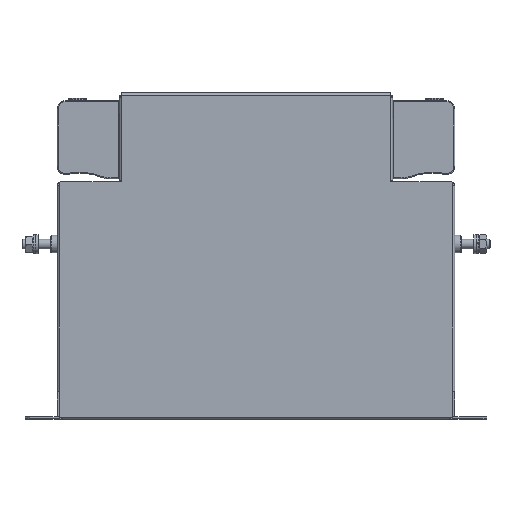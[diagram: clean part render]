
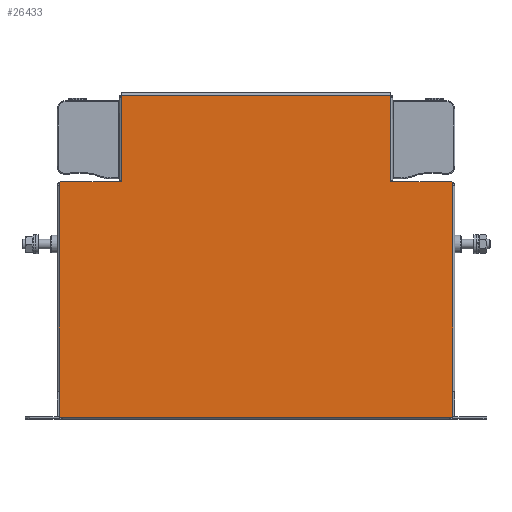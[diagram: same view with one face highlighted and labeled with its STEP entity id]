
A CAD part, top view. The second image highlights one B-rep face of the part: STEP entity #26433.
In plain terms, the highlighted planar face has unit normal (0, 0, 1).
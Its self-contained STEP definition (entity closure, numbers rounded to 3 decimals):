
#3881=FACE_OUTER_BOUND('',#5610,.T.);
#5610=EDGE_LOOP('',(#22480,#22481,#22482,#22483,#22484,#22485,#22486,#22487,
#22488,#22489));
#7776=LINE('',#46256,#9936);
#7777=LINE('',#46258,#9937);
#7778=LINE('',#46260,#9938);
#7779=LINE('',#46262,#9939);
#7780=LINE('',#46264,#9940);
#7781=LINE('',#46266,#9941);
#7782=LINE('',#46268,#9942);
#7783=LINE('',#46270,#9943);
#7784=LINE('',#46272,#9944);
#7785=LINE('',#46273,#9945);
#9936=VECTOR('',#36584,10.);
#9937=VECTOR('',#36585,10.);
#9938=VECTOR('',#36586,10.);
#9939=VECTOR('',#36587,10.);
#9940=VECTOR('',#36588,10.);
#9941=VECTOR('',#36589,10.);
#9942=VECTOR('',#36590,10.);
#9943=VECTOR('',#36591,10.);
#9944=VECTOR('',#36592,10.);
#9945=VECTOR('',#36593,10.);
#12046=VERTEX_POINT('',#46254);
#12047=VERTEX_POINT('',#46255);
#12048=VERTEX_POINT('',#46257);
#12049=VERTEX_POINT('',#46259);
#12050=VERTEX_POINT('',#46261);
#12051=VERTEX_POINT('',#46263);
#12052=VERTEX_POINT('',#46265);
#12053=VERTEX_POINT('',#46267);
#12054=VERTEX_POINT('',#46269);
#12055=VERTEX_POINT('',#46271);
#15537=EDGE_CURVE('',#12046,#12047,#7776,.T.);
#15538=EDGE_CURVE('',#12046,#12048,#7777,.T.);
#15539=EDGE_CURVE('',#12048,#12049,#7778,.T.);
#15540=EDGE_CURVE('',#12049,#12050,#7779,.T.);
#15541=EDGE_CURVE('',#12050,#12051,#7780,.T.);
#15542=EDGE_CURVE('',#12051,#12052,#7781,.T.);
#15543=EDGE_CURVE('',#12053,#12052,#7782,.T.);
#15544=EDGE_CURVE('',#12054,#12053,#7783,.T.);
#15545=EDGE_CURVE('',#12055,#12054,#7784,.T.);
#15546=EDGE_CURVE('',#12047,#12055,#7785,.T.);
#22480=ORIENTED_EDGE('',*,*,#15537,.F.);
#22481=ORIENTED_EDGE('',*,*,#15538,.T.);
#22482=ORIENTED_EDGE('',*,*,#15539,.T.);
#22483=ORIENTED_EDGE('',*,*,#15540,.T.);
#22484=ORIENTED_EDGE('',*,*,#15541,.T.);
#22485=ORIENTED_EDGE('',*,*,#15542,.T.);
#22486=ORIENTED_EDGE('',*,*,#15543,.F.);
#22487=ORIENTED_EDGE('',*,*,#15544,.F.);
#22488=ORIENTED_EDGE('',*,*,#15545,.F.);
#22489=ORIENTED_EDGE('',*,*,#15546,.F.);
#23330=PLANE('',#29116);
#26433=ADVANCED_FACE('',(#3881),#23330,.T.);
#29116=AXIS2_PLACEMENT_3D('',#46253,#36582,#36583);
#36582=DIRECTION('center_axis',(0.,0.,
1.));
#36583=DIRECTION('ref_axis',(1.,0.,0.));
#36584=DIRECTION('',(0.707,-0.707,0.));
#36585=DIRECTION('',(-1.,0.,0.));
#36586=DIRECTION('',(0.,1.,0.));
#36587=DIRECTION('',(-1.,0.,0.));
#36588=DIRECTION('',(0.,-1.,0.));
#36589=DIRECTION('',(-1.,0.,0.));
#36590=DIRECTION('',(0.707,0.707,0.));
#36591=DIRECTION('',(0.,1.,0.));
#36592=DIRECTION('',(-1.,0.,0.));
#36593=DIRECTION('',(0.,-1.,0.));
#46253=CARTESIAN_POINT('Origin',(0.,103.,39.9));
#46254=CARTESIAN_POINT('',(122.8,149.,39.9));
#46255=CARTESIAN_POINT('',(123.8,148.,39.9));
#46256=CARTESIAN_POINT('',(103.85,167.95,39.9));
#46257=CARTESIAN_POINT('',(84.8,149.,39.9));
#46258=CARTESIAN_POINT('',(61.9,149.,39.9));
#46259=CARTESIAN_POINT('',(84.8,203.2,39.9));
#46260=CARTESIAN_POINT('',(84.8,126.,39.9));
#46261=CARTESIAN_POINT('',(-84.8,203.2,39.9));
#46262=CARTESIAN_POINT('',(42.4,203.2,39.9));
#46263=CARTESIAN_POINT('',(-84.8,149.,39.9));
#46264=CARTESIAN_POINT('',(-84.8,154.,39.9));
#46265=CARTESIAN_POINT('',(-122.8,149.,39.9));
#46266=CARTESIAN_POINT('',(-42.4,149.,39.9));
#46267=CARTESIAN_POINT('',(-123.8,148.,39.9));
#46268=CARTESIAN_POINT('',(-103.85,167.95,39.9));
#46269=CARTESIAN_POINT('',(-123.8,1.,39.9));
#46270=CARTESIAN_POINT('',(-123.8,205.,39.9));
#46271=CARTESIAN_POINT('',(123.8,1.,39.9));
#46272=CARTESIAN_POINT('',(-123.8,1.,39.9));
#46273=CARTESIAN_POINT('',(123.8,1.,39.9));
